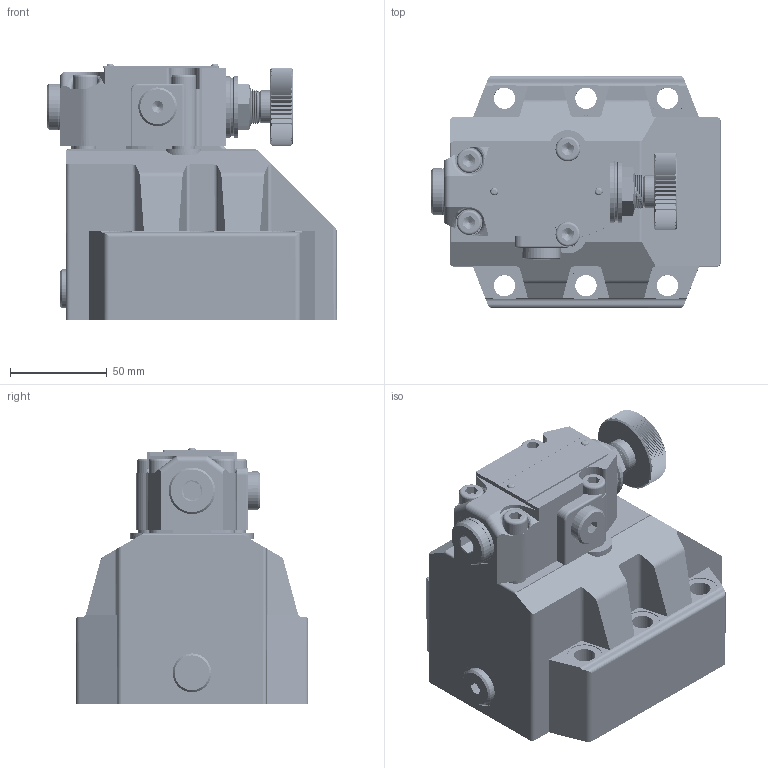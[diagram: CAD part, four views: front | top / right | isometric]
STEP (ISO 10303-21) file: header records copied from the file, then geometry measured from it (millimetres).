
FILE_DESCRIPTION(/* description */ (''),/* implementation_level */ '2;1');
FILE_NAME(/* name */ 'DR30-5XJ减压阀.prt.stp',/* time_stamp */ '2022-03-30T20:17:26+08:00',/* author */ (''),/* organization */ (''),/* preprocessor_version */ 'ST-DEVELOPER v16.7',/* originating_system */ 'SIEMENS PLM Software NX 12.0',/* authorisation */ '');
FILE_SCHEMA (('AUTOMOTIVE_DESIGN { 1 0 10303 214 3 1 1 1 }'));
Products named in the file (1): DR30-5XJ减压阀
Bounding box: 149.5 x 120 x 132 mm (x, y, z)
Volume: 1261805.7 mm3; surface area: 148056.7 mm2
Topology: 23 solids, 26 shells, 1077 faces, 2902 edges, 1902 vertices
Faces by surface type: plane 651, cylinder 301, cone 51, bspline 48, torus 26
Full cylindrical faces by diameter (mm): 1.8 x4, 1.9 x2, 4.2 x1, 6 x5, 7 x12, 8 x93, 8.4 x4, 9 x8, 11 x6, 12.2 x4, 12.73 x4, 13 x1, 14.3 x1, 14.46 x1, 15.9 x1, 16 x1, 17 x1, 17.5 x2, 18.3 x1, 19 x2, 19.7 x1, 20 x3, 21.5 x2, 23 x1, 23.8 x1, 24 x3, 28 x1, 30 x2, 32 x2, 34.309 x1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
Entity records: 87583 total; most frequent: CARTESIAN_POINT 65515, ORIENTED_EDGE 4764, DIRECTION 3676, EDGE_CURVE 2382, VERTEX_POINT 1642, AXIS2_PLACEMENT_3D 1368, EDGE_LOOP 1159, B_SPLINE_CURVE_WITH_KNOTS 992
